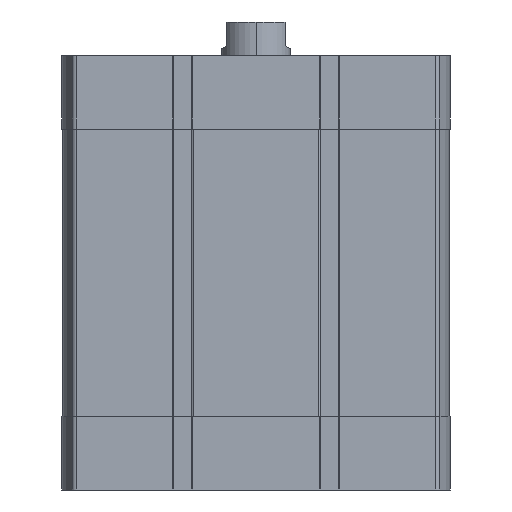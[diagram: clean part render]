
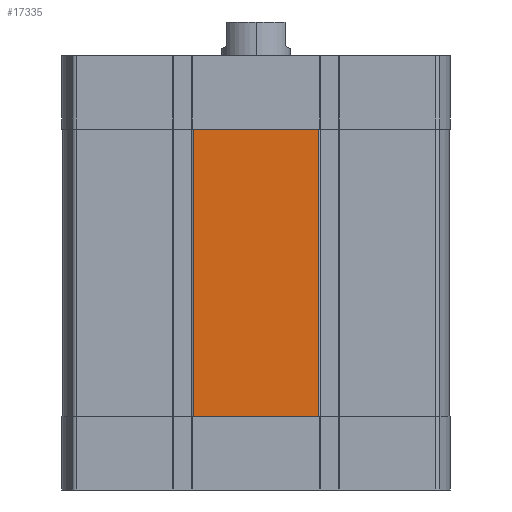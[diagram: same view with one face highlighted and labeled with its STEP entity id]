
A CAD part, left-side view. The second image highlights one B-rep face of the part: STEP entity #17335.
In plain terms, the highlighted planar face has unit normal (-1, 0, 0).
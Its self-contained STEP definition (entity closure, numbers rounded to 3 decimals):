
#309 = EDGE_CURVE ( 'NONE', #15089, #8708, #8770, .T. ) ;
#982 = VERTEX_POINT ( 'NONE', #3126 ) ;
#1082 = CARTESIAN_POINT ( 'NONE',  ( -56.5, 18.345, -21.5 ) ) ;
#3126 = CARTESIAN_POINT ( 'NONE',  ( -56.5, -18.345, -21.5 ) ) ;
#3731 = EDGE_CURVE ( 'NONE', #8319, #982, #8543, .T. ) ;
#4272 = LINE ( 'NONE', #10537, #19692 ) ;
#4352 = DIRECTION ( 'NONE',  ( 0., 0., 1. ) ) ;
#4593 = CARTESIAN_POINT ( 'NONE',  ( -56.5, 18.345, -105.5 ) ) ;
#4822 = ORIENTED_EDGE ( 'NONE', *, *, #7489, .F. ) ;
#6737 = ORIENTED_EDGE ( 'NONE', *, *, #3731, .T. ) ;
#6866 = AXIS2_PLACEMENT_3D ( 'NONE', #4593, #15119, #12502 ) ;
#7249 = CARTESIAN_POINT ( 'NONE',  ( -56.5, 18.345, -105.5 ) ) ;
#7489 = EDGE_CURVE ( 'NONE', #8708, #982, #17000, .T. ) ;
#7679 = FACE_OUTER_BOUND ( 'NONE', #10876, .T. ) ;
#7883 = PLANE ( 'NONE',  #6866 ) ;
#8319 = VERTEX_POINT ( 'NONE', #17658 ) ;
#8543 = LINE ( 'NONE', #8751, #19575 ) ;
#8708 = VERTEX_POINT ( 'NONE', #1082 ) ;
#8751 = CARTESIAN_POINT ( 'NONE',  ( -56.5, -18.345, -105.5 ) ) ;
#8770 = LINE ( 'NONE', #13596, #20002 ) ;
#10537 = CARTESIAN_POINT ( 'NONE',  ( -56.5, 18.345, -105.5 ) ) ;
#10876 = EDGE_LOOP ( 'NONE', ( #4822, #17205, #15052, #6737 ) ) ;
#12502 = DIRECTION ( 'NONE',  ( 0., 0., 1. ) ) ;
#13065 = DIRECTION ( 'NONE',  ( 0., 0., 1. ) ) ;
#13398 = CARTESIAN_POINT ( 'NONE',  ( -56.5, 18.345, -21.5 ) ) ;
#13596 = CARTESIAN_POINT ( 'NONE',  ( -56.5, 18.345, -105.5 ) ) ;
#13918 = DIRECTION ( 'NONE',  ( 0., -1., 0. ) ) ;
#15052 = ORIENTED_EDGE ( 'NONE', *, *, #17806, .T. ) ;
#15089 = VERTEX_POINT ( 'NONE', #7249 ) ;
#15119 = DIRECTION ( 'NONE',  ( -1., 0., 0. ) ) ;
#16599 = DIRECTION ( 'NONE',  ( 0., -1., 0. ) ) ;
#17000 = LINE ( 'NONE', #13398, #19824 ) ;
#17205 = ORIENTED_EDGE ( 'NONE', *, *, #309, .F. ) ;
#17335 = ADVANCED_FACE ( 'NONE', ( #7679 ), #7883, .T. ) ;
#17658 = CARTESIAN_POINT ( 'NONE',  ( -56.5, -18.345, -105.5 ) ) ;
#17806 = EDGE_CURVE ( 'NONE', #15089, #8319, #4272, .T. ) ;
#19575 = VECTOR ( 'NONE', #13065, 1000. ) ;
#19692 = VECTOR ( 'NONE', #13918, 1000. ) ;
#19824 = VECTOR ( 'NONE', #16599, 1000. ) ;
#20002 = VECTOR ( 'NONE', #4352, 1000. ) ;
